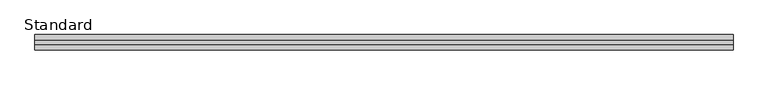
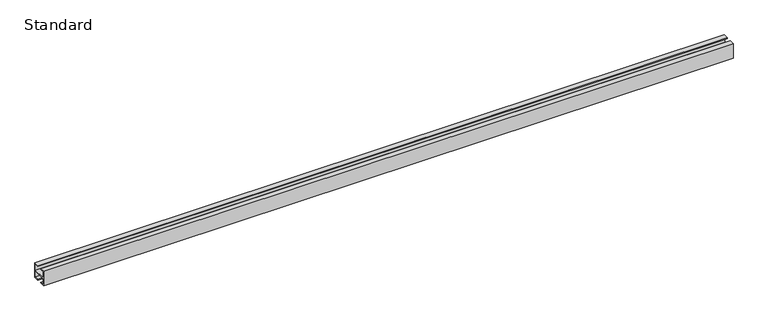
"""IFC4 building model written with IfcOpenShell, lengths in millimetres: furniture geometry, X_Partition-Channel-Duracube-Head : Standard."""

from ifc_helpers import new_model, si_unit, frame, origin, place, context, project, spatial, polyline, outline, extrude, source, transform, mapped, element, save


def standard_b1effbfe(model_context):
    return source(origin(), model_context, "Body", "SweptSolid", [
        extrude(outline(polyline([(0.0, 0.0), (-13.5, 0.0), (-13.5, 2.0), (-2.0, 2.0), (-2.0, 19.0), (-38.0, 19.0), (-38.0, 2.0), (-26.5, 2.0), (-26.5, 0.0), (-40.0, 0.0), (-40.0, 40.0), (-26.5, 40.0), (-26.5, 38.0), (-38.0, 38.0), (-38.0, 21.0), (-2.0, 21.0), (-2.0, 38.0), (-13.5, 38.0), (-13.5, 40.0), (0.0, 40.0), (0.0, 0.0)])), frame((-855.2996736, 0.0, 0.0), z_axis=(1.0, 0.0, 0.0), x_axis=(0.0, 1.0, 0.0)), (0.0, 0.0, 1.0), 1800.0),
    ])


if __name__ == "__main__":
    model = new_model("IFC4")
    model_context = context("Model", 3, world=origin())
    ifc_project = project(units=[si_unit("LENGTHUNIT", "METRE", prefix="MILLI")], contexts=[model_context])
    site = spatial("IfcSite", under=ifc_project)
    building = spatial("IfcBuilding", under=site)
    placement = place(None, origin())
    standard_shape = standard_b1effbfe(model_context)
    element("IfcFurniture", 1, ObjectType="X_Partition-Channel-Duracube-Head : Standard", at=placement, inside=building, context=model_context, shape_type="MappedRepresentation", body=[
        mapped(standard_shape, transform((0.0, 0.0, 0.0), x_axis=(1.0, 0.0, 0.0), y_axis=(0.0, 1.0, 0.0), z_axis=(0.0, 0.0, 1.0))),
    ])
    save(model, "model.ifc")
